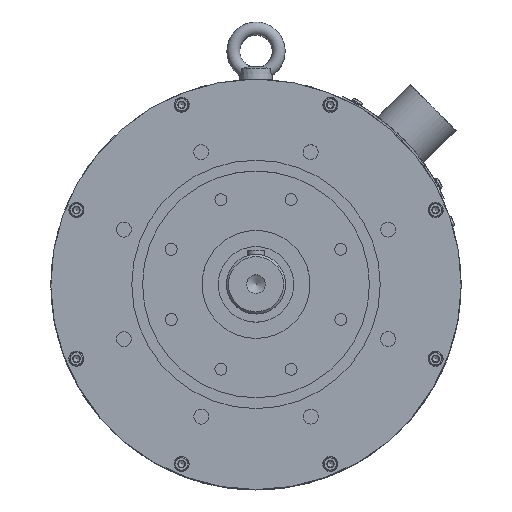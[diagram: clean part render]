
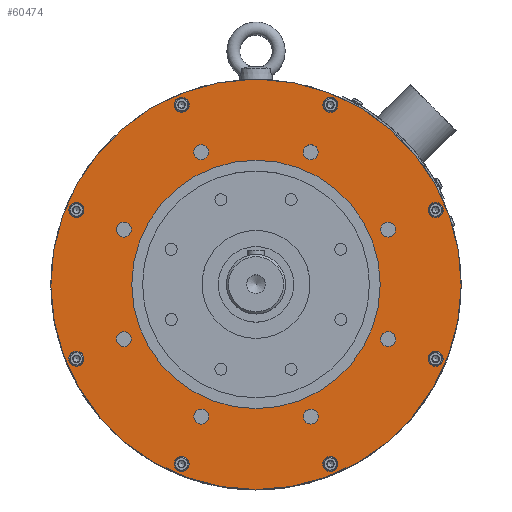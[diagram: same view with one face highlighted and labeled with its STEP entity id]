
A CAD part, top view. The second image highlights one B-rep face of the part: STEP entity #60474.
In plain terms, the highlighted planar face has unit normal (0, 0, 1).
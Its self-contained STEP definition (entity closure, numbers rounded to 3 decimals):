
#1823=FACE_BOUND('',#19521,.T.);
#1824=FACE_BOUND('',#19522,.T.);
#1825=FACE_BOUND('',#19523,.T.);
#1826=FACE_BOUND('',#19524,.T.);
#1827=FACE_BOUND('',#19525,.T.);
#1828=FACE_BOUND('',#19526,.T.);
#1829=FACE_BOUND('',#19527,.T.);
#1830=FACE_BOUND('',#19528,.T.);
#1831=FACE_BOUND('',#19529,.T.);
#1832=FACE_BOUND('',#19530,.T.);
#1833=FACE_BOUND('',#19531,.T.);
#1834=FACE_BOUND('',#19532,.T.);
#1835=FACE_BOUND('',#19533,.T.);
#1836=FACE_BOUND('',#19534,.T.);
#1837=FACE_BOUND('',#19535,.T.);
#1838=FACE_BOUND('',#19536,.T.);
#1839=FACE_BOUND('',#19537,.T.);
#4230=LINE('',#96113,#9022);
#4231=LINE('',#96135,#9023);
#4232=LINE('',#96157,#9024);
#9022=VECTOR('',#73571,0.238);
#9023=VECTOR('',#73576,6.245);
#9024=VECTOR('',#73579,0.238);
#13263=PLANE('',#64582);
#15928=FACE_OUTER_BOUND('',#19520,.T.);
#19520=EDGE_LOOP('',(#45188,#45189,#45190,#45191));
#19521=EDGE_LOOP('',(#45192));
#19522=EDGE_LOOP('',(#45193));
#19523=EDGE_LOOP('',(#45194));
#19524=EDGE_LOOP('',(#45195));
#19525=EDGE_LOOP('',(#45196));
#19526=EDGE_LOOP('',(#45197));
#19527=EDGE_LOOP('',(#45198));
#19528=EDGE_LOOP('',(#45199));
#19529=EDGE_LOOP('',(#45200));
#19530=EDGE_LOOP('',(#45201));
#19531=EDGE_LOOP('',(#45202));
#19532=EDGE_LOOP('',(#45203));
#19533=EDGE_LOOP('',(#45204));
#19534=EDGE_LOOP('',(#45205));
#19535=EDGE_LOOP('',(#45206));
#19536=EDGE_LOOP('',(#45207));
#19537=EDGE_LOOP('',(#45208));
#23222=CIRCLE('',#64509,6.918);
#23223=CIRCLE('',#64511,6.918);
#23224=CIRCLE('',#64513,6.918);
#23225=CIRCLE('',#64515,6.918);
#23226=CIRCLE('',#64517,6.918);
#23227=CIRCLE('',#64519,6.918);
#23228=CIRCLE('',#64521,6.918);
#23229=CIRCLE('',#64523,6.918);
#23232=CIRCLE('',#64528,7.);
#23235=CIRCLE('',#64534,7.);
#23238=CIRCLE('',#64540,7.);
#23241=CIRCLE('',#64546,7.);
#23244=CIRCLE('',#64552,7.);
#23247=CIRCLE('',#64558,7.);
#23250=CIRCLE('',#64564,7.);
#23253=CIRCLE('',#64570,7.);
#23258=CIRCLE('',#64581,115.);
#23259=CIRCLE('',#64583,190.);
#27128=VERTEX_POINT('',#96110);
#27129=VERTEX_POINT('',#96112);
#27130=VERTEX_POINT('',#96133);
#27131=VERTEX_POINT('',#96137);
#27140=VERTEX_POINT('',#96183);
#27141=VERTEX_POINT('',#96186);
#27142=VERTEX_POINT('',#96189);
#27143=VERTEX_POINT('',#96192);
#27144=VERTEX_POINT('',#96195);
#27145=VERTEX_POINT('',#96198);
#27146=VERTEX_POINT('',#96201);
#27147=VERTEX_POINT('',#96204);
#27150=VERTEX_POINT('',#96212);
#27153=VERTEX_POINT('',#96221);
#27156=VERTEX_POINT('',#96230);
#27159=VERTEX_POINT('',#96239);
#27162=VERTEX_POINT('',#96248);
#27165=VERTEX_POINT('',#96257);
#27168=VERTEX_POINT('',#96266);
#27171=VERTEX_POINT('',#96275);
#27176=VERTEX_POINT('',#96291);
#33852=EDGE_CURVE('',#27129,#27128,#4230,.T.);
#33855=EDGE_CURVE('',#27128,#27130,#4231,.T.);
#33857=EDGE_CURVE('',#27130,#27131,#4232,.T.);
#33866=EDGE_CURVE('',#27140,#27140,#23222,.T.);
#33867=EDGE_CURVE('',#27141,#27141,#23223,.T.);
#33868=EDGE_CURVE('',#27142,#27142,#23224,.T.);
#33869=EDGE_CURVE('',#27143,#27143,#23225,.T.);
#33870=EDGE_CURVE('',#27144,#27144,#23226,.T.);
#33871=EDGE_CURVE('',#27145,#27145,#23227,.T.);
#33872=EDGE_CURVE('',#27146,#27146,#23228,.T.);
#33873=EDGE_CURVE('',#27147,#27147,#23229,.T.);
#33876=EDGE_CURVE('',#27150,#27150,#23232,.T.);
#33879=EDGE_CURVE('',#27153,#27153,#23235,.T.);
#33882=EDGE_CURVE('',#27156,#27156,#23238,.T.);
#33885=EDGE_CURVE('',#27159,#27159,#23241,.T.);
#33888=EDGE_CURVE('',#27162,#27162,#23244,.T.);
#33891=EDGE_CURVE('',#27165,#27165,#23247,.T.);
#33894=EDGE_CURVE('',#27168,#27168,#23250,.T.);
#33897=EDGE_CURVE('',#27171,#27171,#23253,.T.);
#33902=EDGE_CURVE('',#27176,#27176,#23258,.T.);
#33903=EDGE_CURVE('',#27129,#27131,#23259,.T.);
#45188=ORIENTED_EDGE('',*,*,#33857,.T.);
#45189=ORIENTED_EDGE('',*,*,#33903,.F.);
#45190=ORIENTED_EDGE('',*,*,#33852,.T.);
#45191=ORIENTED_EDGE('',*,*,#33855,.T.);
#45192=ORIENTED_EDGE('',*,*,#33866,.T.);
#45193=ORIENTED_EDGE('',*,*,#33867,.T.);
#45194=ORIENTED_EDGE('',*,*,#33868,.T.);
#45195=ORIENTED_EDGE('',*,*,#33869,.T.);
#45196=ORIENTED_EDGE('',*,*,#33870,.T.);
#45197=ORIENTED_EDGE('',*,*,#33871,.T.);
#45198=ORIENTED_EDGE('',*,*,#33872,.T.);
#45199=ORIENTED_EDGE('',*,*,#33873,.T.);
#45200=ORIENTED_EDGE('',*,*,#33876,.T.);
#45201=ORIENTED_EDGE('',*,*,#33879,.T.);
#45202=ORIENTED_EDGE('',*,*,#33882,.T.);
#45203=ORIENTED_EDGE('',*,*,#33885,.T.);
#45204=ORIENTED_EDGE('',*,*,#33888,.T.);
#45205=ORIENTED_EDGE('',*,*,#33891,.T.);
#45206=ORIENTED_EDGE('',*,*,#33894,.T.);
#45207=ORIENTED_EDGE('',*,*,#33897,.T.);
#45208=ORIENTED_EDGE('',*,*,#33902,.T.);
#60474=ADVANCED_FACE('',(#15928,#1823,#1824,#1825,#1826,#1827,#1828,#1829,
#1830,#1831,#1832,#1833,#1834,#1835,#1836,#1837,#1838,#1839),#13263,.T.);
#64509=AXIS2_PLACEMENT_3D('',#96184,#73614,#73615);
#64511=AXIS2_PLACEMENT_3D('',#96187,#73618,#73619);
#64513=AXIS2_PLACEMENT_3D('',#96190,#73622,#73623);
#64515=AXIS2_PLACEMENT_3D('',#96193,#73626,#73627);
#64517=AXIS2_PLACEMENT_3D('',#96196,#73630,#73631);
#64519=AXIS2_PLACEMENT_3D('',#96199,#73634,#73635);
#64521=AXIS2_PLACEMENT_3D('',#96202,#73638,#73639);
#64523=AXIS2_PLACEMENT_3D('',#96205,#73642,#73643);
#64528=AXIS2_PLACEMENT_3D('',#96213,#73652,#73653);
#64534=AXIS2_PLACEMENT_3D('',#96222,#73664,#73665);
#64540=AXIS2_PLACEMENT_3D('',#96231,#73676,#73677);
#64546=AXIS2_PLACEMENT_3D('',#96240,#73688,#73689);
#64552=AXIS2_PLACEMENT_3D('',#96249,#73700,#73701);
#64558=AXIS2_PLACEMENT_3D('',#96258,#73712,#73713);
#64564=AXIS2_PLACEMENT_3D('',#96267,#73724,#73725);
#64570=AXIS2_PLACEMENT_3D('',#96276,#73736,#73737);
#64581=AXIS2_PLACEMENT_3D('',#96292,#73758,#73759);
#64582=AXIS2_PLACEMENT_3D('',#96293,#73760,#73761);
#64583=AXIS2_PLACEMENT_3D('',#96294,#73762,#73763);
#73571=DIRECTION('',(0.,-1.,0.));
#73576=DIRECTION('',(-1.,0.,0.));
#73579=DIRECTION('',(0.,1.,0.));
#73614=DIRECTION('center_axis',(0.,0.,-1.));
#73615=DIRECTION('ref_axis',(0.707,-0.707,0.));
#73618=DIRECTION('center_axis',(0.,0.,-1.));
#73619=DIRECTION('ref_axis',(0.,-1.,0.));
#73622=DIRECTION('center_axis',(0.,0.,-1.));
#73623=DIRECTION('ref_axis',(-0.707,-0.707,0.));
#73626=DIRECTION('center_axis',(0.,0.,-1.));
#73627=DIRECTION('ref_axis',(-1.,0.,0.));
#73630=DIRECTION('center_axis',(0.,0.,-1.));
#73631=DIRECTION('ref_axis',(-0.707,0.707,0.));
#73634=DIRECTION('center_axis',(0.,0.,-1.));
#73635=DIRECTION('ref_axis',(0.,1.,0.));
#73638=DIRECTION('center_axis',(0.,0.,-1.));
#73639=DIRECTION('ref_axis',(0.707,0.707,0.));
#73642=DIRECTION('center_axis',(0.,0.,-1.));
#73643=DIRECTION('ref_axis',(1.,0.,0.));
#73652=DIRECTION('center_axis',(0.,0.,-1.));
#73653=DIRECTION('ref_axis',(0.707,-0.707,0.));
#73664=DIRECTION('center_axis',(0.,0.,-1.));
#73665=DIRECTION('ref_axis',(0.,-1.,0.));
#73676=DIRECTION('center_axis',(0.,0.,-1.));
#73677=DIRECTION('ref_axis',(-0.707,-0.707,0.));
#73688=DIRECTION('center_axis',(0.,0.,-1.));
#73689=DIRECTION('ref_axis',(-1.,0.,0.));
#73700=DIRECTION('center_axis',(0.,0.,-1.));
#73701=DIRECTION('ref_axis',(-0.707,0.707,0.));
#73712=DIRECTION('center_axis',(0.,0.,-1.));
#73713=DIRECTION('ref_axis',(0.,1.,0.));
#73724=DIRECTION('center_axis',(0.,0.,-1.));
#73725=DIRECTION('ref_axis',(0.707,0.707,0.));
#73736=DIRECTION('center_axis',(0.,0.,-1.));
#73737=DIRECTION('ref_axis',(1.,0.,0.));
#73758=DIRECTION('center_axis',(0.,0.,-1.));
#73759=DIRECTION('ref_axis',(1.,0.,0.));
#73760=DIRECTION('center_axis',(0.,0.,1.));
#73761=DIRECTION('ref_axis',(1.,0.,0.));
#73762=DIRECTION('center_axis',(0.,0.,-1.));
#73763=DIRECTION('ref_axis',(1.,0.,0.));
#96110=CARTESIAN_POINT('',(3.122,189.737,19.));
#96112=CARTESIAN_POINT('',(3.122,189.974,19.));
#96113=CARTESIAN_POINT('',(3.122,190.,19.));
#96133=CARTESIAN_POINT('',(-3.122,189.737,19.));
#96135=CARTESIAN_POINT('',(0.,189.737,19.));
#96137=CARTESIAN_POINT('',(-3.122,189.974,19.));
#96157=CARTESIAN_POINT('',(-3.122,190.,19.));
#96183=CARTESIAN_POINT('',(55.597,117.523,19.));
#96184=CARTESIAN_POINT('Origin',(50.706,122.414,19.));
#96186=CARTESIAN_POINT('',(122.414,43.788,19.));
#96187=CARTESIAN_POINT('Origin',(122.414,50.706,19.));
#96189=CARTESIAN_POINT('',(117.523,-55.597,19.));
#96190=CARTESIAN_POINT('Origin',(122.414,-50.706,19.));
#96192=CARTESIAN_POINT('',(43.788,-122.414,19.));
#96193=CARTESIAN_POINT('Origin',(50.706,-122.414,19.));
#96195=CARTESIAN_POINT('',(-55.597,-117.523,19.));
#96196=CARTESIAN_POINT('Origin',(-50.706,-122.414,19.));
#96198=CARTESIAN_POINT('',(-122.414,-43.788,19.));
#96199=CARTESIAN_POINT('Origin',(-122.414,-50.706,19.));
#96201=CARTESIAN_POINT('',(-117.523,55.597,19.));
#96202=CARTESIAN_POINT('Origin',(-122.414,50.706,19.));
#96204=CARTESIAN_POINT('',(-43.788,122.414,19.));
#96205=CARTESIAN_POINT('Origin',(-50.706,122.414,19.));
#96212=CARTESIAN_POINT('',(73.833,161.349,19.));
#96213=CARTESIAN_POINT('Origin',(68.883,166.298,19.));
#96221=CARTESIAN_POINT('',(166.298,61.883,19.));
#96222=CARTESIAN_POINT('Origin',(166.298,68.883,19.));
#96230=CARTESIAN_POINT('',(161.349,-73.833,19.));
#96231=CARTESIAN_POINT('Origin',(166.298,-68.883,19.));
#96239=CARTESIAN_POINT('',(61.883,-166.298,19.));
#96240=CARTESIAN_POINT('Origin',(68.883,-166.298,19.));
#96248=CARTESIAN_POINT('',(-73.833,-161.349,19.));
#96249=CARTESIAN_POINT('Origin',(-68.883,-166.298,19.));
#96257=CARTESIAN_POINT('',(-166.298,-61.883,19.));
#96258=CARTESIAN_POINT('Origin',(-166.298,-68.883,19.));
#96266=CARTESIAN_POINT('',(-161.349,73.833,19.));
#96267=CARTESIAN_POINT('Origin',(-166.298,68.883,19.));
#96275=CARTESIAN_POINT('',(-61.883,166.298,19.));
#96276=CARTESIAN_POINT('Origin',(-68.883,166.298,19.));
#96291=CARTESIAN_POINT('',(0.,115.,19.));
#96292=CARTESIAN_POINT('Origin',(0.,0.,19.));
#96293=CARTESIAN_POINT('Origin',(0.,190.,19.));
#96294=CARTESIAN_POINT('Origin',(0.,0.,19.));
